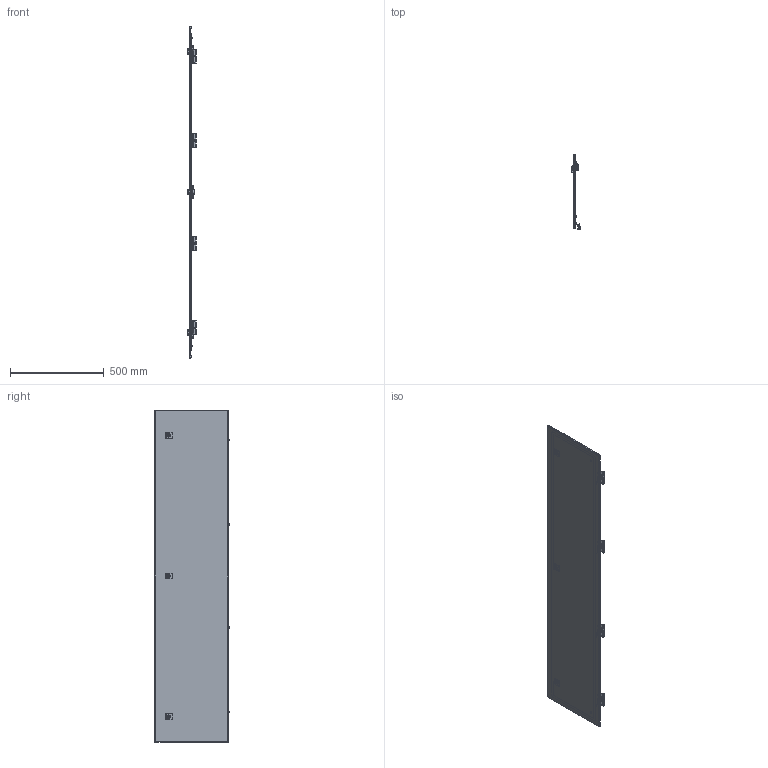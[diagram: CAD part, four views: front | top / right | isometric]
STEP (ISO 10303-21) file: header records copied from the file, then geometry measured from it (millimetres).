
FILE_DESCRIPTION(('STEP AP203'), '1');
FILE_NAME('3634 Äâåðü ñåêöèîííàÿ íà âñþ âûñîòó ÑÁ', '', ('UNSPECIFIED'), ('UNSPECIFIED'), 'C3D Converter', 'C3D Toolkit', '');
FILE_SCHEMA(('CONFIG_CONTROL_DESIGN'));
Length unit declared in the file: millimetre
Products named in the file (15): 3634.180.40; 3635.для сайта; 3636.на сайт; 3422.01; 3009.05; 3009.05.01; 3622.01; _2420.000_p1; 3656
Assembly tree (37 placements, depth 3):
  3634.180.40
    3635.для сайта
      3636.на сайт
      (unnamed)  x2
      3422.01  x4
    3009.05  x4
      3009.05.01
      (unnamed)
      (unnamed)
    3622.01  x4
    (unnamed)  x4
    (unnamed)  x6
    (unnamed)  x3
      _2420.000_p1
    3656  x3
Bounding box: 43 x 395.03 x 1771 mm (x, y, z)
Volume: 1623058.1 mm3; surface area: 1784568.5 mm2
Topology: 44 solids, 44 shells, 1801 faces, 4793 edges, 3144 vertices
Faces by surface type: plane 1223, cylinder 487, cone 62, torus 13, bspline 12, sphere 4
Full cylindrical faces by diameter (mm): 3 x3, 4.134 x4, 5 x18, 5.8 x4, 6 x14, 6.1 x4, 7.5 x14, 9.2 x14, 9.3 x3, 10 x3, 10.5 x4, 11.5 x4, 12 x4, 20 x3
Entity records: 23594 total; most frequent: CARTESIAN_POINT 6077, DIRECTION 3055, ORIENTED_EDGE 2932, EDGE_CURVE 1466, LINE 1065, VECTOR 1065, AXIS2_PLACEMENT_3D 995, VERTEX_POINT 961
